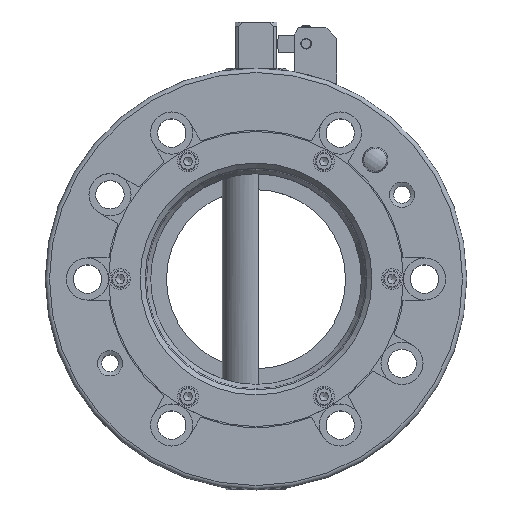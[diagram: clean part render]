
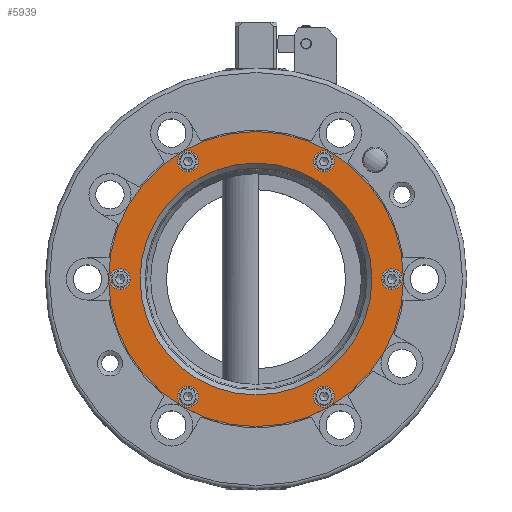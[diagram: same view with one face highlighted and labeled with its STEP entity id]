
A CAD part, top view. The second image highlights one B-rep face of the part: STEP entity #5939.
In plain terms, the highlighted planar face has unit normal (0, 0, 1).
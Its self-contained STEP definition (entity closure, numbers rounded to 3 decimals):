
#663=CIRCLE('',#6491,70.);
#669=CIRCLE('',#6501,5.);
#670=CIRCLE('',#6502,5.);
#671=CIRCLE('',#6503,5.);
#672=CIRCLE('',#6504,5.);
#673=CIRCLE('',#6505,5.);
#674=CIRCLE('',#6506,5.);
#675=CIRCLE('',#6507,55.);
#899=PLANE('',#6500);
#1159=FACE_BOUND('',#1555,.T.);
#1160=FACE_BOUND('',#1556,.T.);
#1161=FACE_BOUND('',#1557,.T.);
#1162=FACE_BOUND('',#1558,.T.);
#1163=FACE_BOUND('',#1559,.T.);
#1164=FACE_BOUND('',#1560,.T.);
#1165=FACE_BOUND('',#1561,.T.);
#1166=FACE_BOUND('',#1562,.T.);
#1555=EDGE_LOOP('',(#4365));
#1556=EDGE_LOOP('',(#4366));
#1557=EDGE_LOOP('',(#4367));
#1558=EDGE_LOOP('',(#4368));
#1559=EDGE_LOOP('',(#4369));
#1560=EDGE_LOOP('',(#4370));
#1561=EDGE_LOOP('',(#4371));
#1562=EDGE_LOOP('',(#4372));
#2747=VERTEX_POINT('',#9724);
#2753=VERTEX_POINT('',#9740);
#2754=VERTEX_POINT('',#9742);
#2755=VERTEX_POINT('',#9744);
#2756=VERTEX_POINT('',#9746);
#2757=VERTEX_POINT('',#9748);
#2758=VERTEX_POINT('',#9750);
#2759=VERTEX_POINT('',#9752);
#3360=EDGE_CURVE('',#2747,#2747,#663,.T.);
#3366=EDGE_CURVE('',#2753,#2753,#669,.T.);
#3367=EDGE_CURVE('',#2754,#2754,#670,.T.);
#3368=EDGE_CURVE('',#2755,#2755,#671,.T.);
#3369=EDGE_CURVE('',#2756,#2756,#672,.T.);
#3370=EDGE_CURVE('',#2757,#2757,#673,.T.);
#3371=EDGE_CURVE('',#2758,#2758,#674,.T.);
#3372=EDGE_CURVE('',#2759,#2759,#675,.T.);
#4365=ORIENTED_EDGE('',*,*,#3366,.T.);
#4366=ORIENTED_EDGE('',*,*,#3367,.T.);
#4367=ORIENTED_EDGE('',*,*,#3368,.T.);
#4368=ORIENTED_EDGE('',*,*,#3369,.T.);
#4369=ORIENTED_EDGE('',*,*,#3370,.T.);
#4370=ORIENTED_EDGE('',*,*,#3371,.T.);
#4371=ORIENTED_EDGE('',*,*,#3360,.T.);
#4372=ORIENTED_EDGE('',*,*,#3372,.F.);
#5939=ADVANCED_FACE('',(#1159,#1160,#1161,#1162,#1163,#1164,#1165,#1166),
#899,.T.);
#6491=AXIS2_PLACEMENT_3D('',#9725,#7606,#7607);
#6500=AXIS2_PLACEMENT_3D('',#9739,#7624,#7625);
#6501=AXIS2_PLACEMENT_3D('',#9741,#7626,#7627);
#6502=AXIS2_PLACEMENT_3D('',#9743,#7628,#7629);
#6503=AXIS2_PLACEMENT_3D('',#9745,#7630,#7631);
#6504=AXIS2_PLACEMENT_3D('',#9747,#7632,#7633);
#6505=AXIS2_PLACEMENT_3D('',#9749,#7634,#7635);
#6506=AXIS2_PLACEMENT_3D('',#9751,#7636,#7637);
#6507=AXIS2_PLACEMENT_3D('',#9753,#7638,#7639);
#7606=DIRECTION('center_axis',(0.,0.,
1.));
#7607=DIRECTION('ref_axis',(0.,-1.,0.));
#7624=DIRECTION('center_axis',(0.,0.,
1.));
#7625=DIRECTION('ref_axis',(1.,0.,0.));
#7626=DIRECTION('center_axis',(0.,0.,
-1.));
#7627=DIRECTION('ref_axis',(-0.5,-0.866,0.));
#7628=DIRECTION('center_axis',(0.,0.,
-1.));
#7629=DIRECTION('ref_axis',(-1.,0.,0.));
#7630=DIRECTION('center_axis',(0.,0.,
-1.));
#7631=DIRECTION('ref_axis',(-0.5,0.866,0.));
#7632=DIRECTION('center_axis',(0.,0.,
-1.));
#7633=DIRECTION('ref_axis',(0.5,0.866,0.));
#7634=DIRECTION('center_axis',(0.,0.,
-1.));
#7635=DIRECTION('ref_axis',(0.5,-0.866,0.));
#7636=DIRECTION('center_axis',(0.,0.,
-1.));
#7637=DIRECTION('ref_axis',(1.,0.,0.));
#7638=DIRECTION('center_axis',(0.,0.,
1.));
#7639=DIRECTION('ref_axis',(0.,1.,0.));
#9724=CARTESIAN_POINT('',(0.,-70.,32.4));
#9725=CARTESIAN_POINT('Origin',(0.,0.,
32.4));
#9739=CARTESIAN_POINT('Origin',(0.,-61.,32.4));
#9740=CARTESIAN_POINT('',(29.75,51.529,32.4));
#9741=CARTESIAN_POINT('Origin',(32.25,55.859,32.4));
#9742=CARTESIAN_POINT('',(59.5,0.,32.4));
#9743=CARTESIAN_POINT('Origin',(64.5,0.,32.4));
#9744=CARTESIAN_POINT('',(29.75,-51.529,32.4));
#9745=CARTESIAN_POINT('Origin',(32.25,-55.859,32.4));
#9746=CARTESIAN_POINT('',(-29.75,-51.529,32.4));
#9747=CARTESIAN_POINT('Origin',(-32.25,-55.859,32.4));
#9748=CARTESIAN_POINT('',(-29.75,51.529,32.4));
#9749=CARTESIAN_POINT('Origin',(-32.25,55.859,32.4));
#9750=CARTESIAN_POINT('',(-59.5,0.,32.4));
#9751=CARTESIAN_POINT('Origin',(-64.5,0.,32.4));
#9752=CARTESIAN_POINT('',(0.,-55.,32.4));
#9753=CARTESIAN_POINT('Origin',(0.,0.,
32.4));
